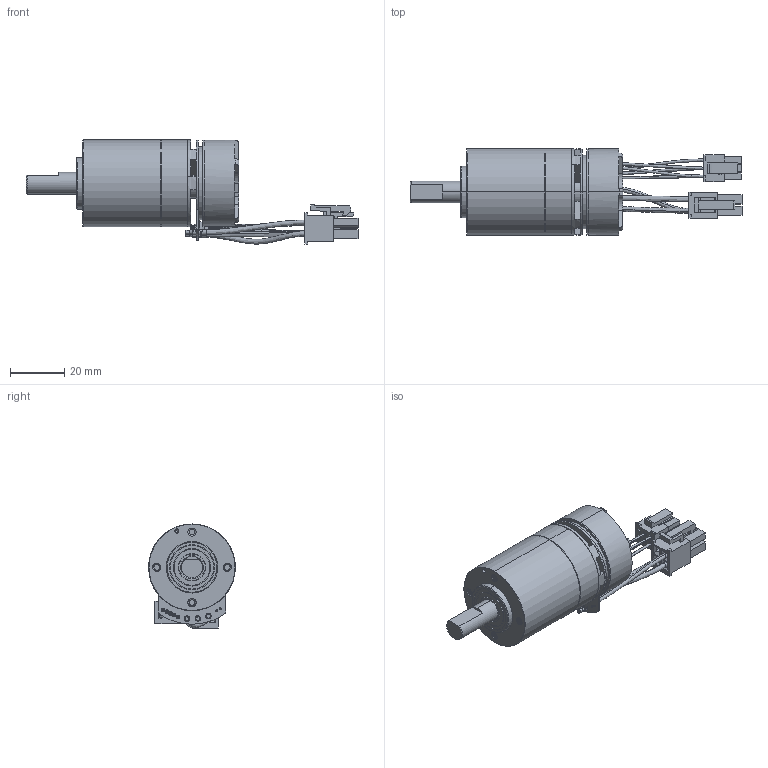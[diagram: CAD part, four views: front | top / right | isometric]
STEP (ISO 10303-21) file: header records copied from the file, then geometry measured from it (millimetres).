
FILE_DESCRIPTION(('STEP AP214'),'1');
FILE_NAME('cctmp_3DEB660A-AA9A-4B4B-96D6-94FD05FE1951_2024_11_4_4_28_32_907..stp','2024-11-04T03:28:33',('maxon motor ag'),('CADClick - www.CADClick.com'),'Spatial InterOp 3D',' ','unknown authorization');
FILE_SCHEMA(('AUTOMOTIVE_DESIGN'));
Length unit declared in the file: millimetre
Products named in the file (35): 0
Assembly tree (34 placements, depth 2):
  (unnamed)
    0
    0
    0
    0
    0
    0
    0
    0
    0
    0
    0
    0
    0
    0
    0
    0
    0
    0
    0
    0
    0
    0
    0
    0
    0
    0
    0
    0
    0
    0
    0
    0
    0
    0
Bounding box: 122.5 x 32 x 38.42 mm (x, y, z)
Volume: 33689.5 mm3; surface area: 27034.1 mm2
Topology: 38 solids, 38 shells, 1085 faces, 2624 edges, 1649 vertices
Faces by surface type: plane 675, cylinder 182, cone 164, bspline 28, torus 24, extrusion 12
Entity records: 46929 total; most frequent: CARTESIAN_POINT 7185, DIRECTION 5340, ORIENTED_EDGE 5244, EDGE_CURVE 2622, STYLED_ITEM 2009, PRESENTATION_STYLE_ASSIGNMENT 2009, COLOUR_RGB 2009, VECTOR 1888
